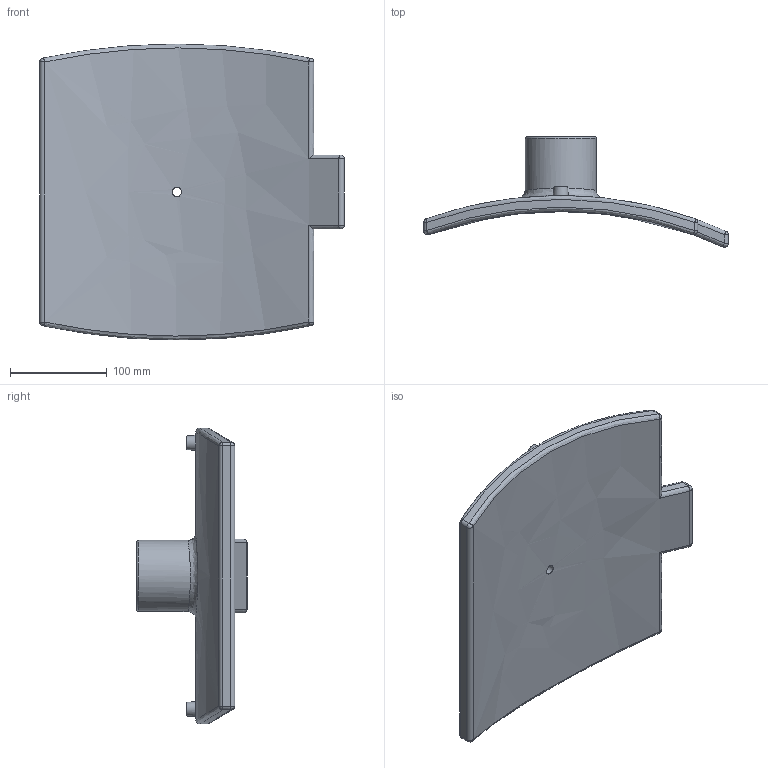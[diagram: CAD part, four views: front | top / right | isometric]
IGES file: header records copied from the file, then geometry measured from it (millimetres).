
Global section: file name: 493804710020; native system: Autodesk Inventor 2019; preprocessor: unknown; author: KIM; date: 20210905.105129; units: millimetre
Bounding box: 315 x 114.15 x 306 mm (x, y, z)
Volume: 1518729.1 mm3; surface area: 218350.8 mm2
Topology: 1 solids, 1 shells, 68 faces, 139 edges, 83 vertices
Faces by surface type: bspline 68
